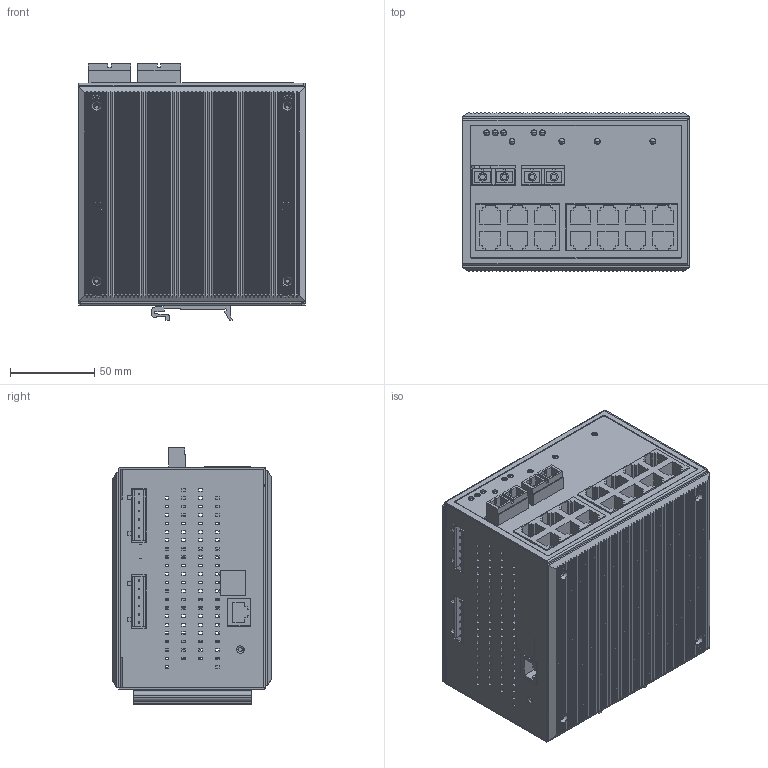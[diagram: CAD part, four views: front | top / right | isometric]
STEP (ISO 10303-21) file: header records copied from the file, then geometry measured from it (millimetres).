
FILE_DESCRIPTION((''),'2;1');
FILE_NAME('EDS-516A-MM-SC','2010-08-20T',('Chialu_Chang'),(''),'PRO/ENGINEER BY PARAMETRIC TECHNOLOGY CORPORATION, 2004440','PRO/ENGINEER BY PARAMETRIC TECHNOLOGY CORPORATION, 2004440','');
FILE_SCHEMA(('CONFIG_CONTROL_DESIGN'));
Products named in the file (1): EDS-516A-MM-SC
Bounding box: 135 x 94.03 x 151.85 mm (x, y, z)
Surface area: 526460.1 mm2 (no closed solid volume)
Topology: 0 solids, 100 shells, 7156 faces, 18133 edges, 11659 vertices
Faces by surface type: plane 5839, cylinder 900, cone 332, torus 62, bspline 23
Entity records: 214101 total; most frequent: CARTESIAN_POINT 41108, ORIENTED_EDGE 36074, DIRECTION 33398, EDGE_CURVE 18095, VECTOR 15092, LINE 15092, VERTEX_POINT 11659, AXIS2_PLACEMENT_3D 9153
